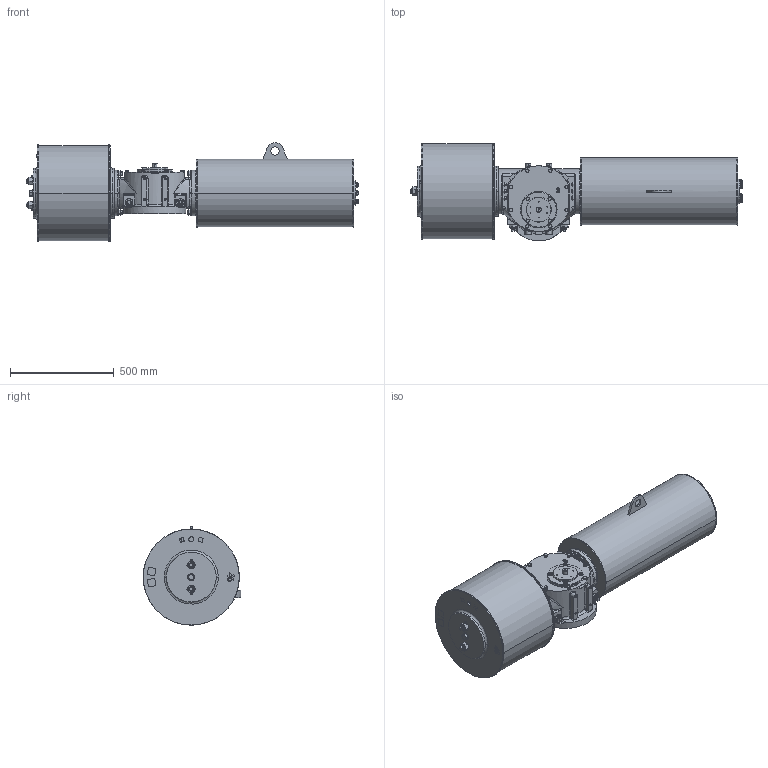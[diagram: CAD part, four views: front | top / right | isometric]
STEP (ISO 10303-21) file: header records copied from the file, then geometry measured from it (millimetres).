
FILE_DESCRIPTION (( 'STEP AP203' ), '1' );
FILE_NAME ('VTS3-450-SR-FC.STEP', '2022-04-19T02:17:41', ( 'hzljy' ), ( '' ), 'SwSTEP 2.0', 'SolidWorks 2020', '' );
FILE_SCHEMA (( 'CONFIG_CONTROL_DESIGN' ));
Length unit declared in the file: millimetre
Products named in the file (1): VTS3-450-SR-FC
Bounding box: 1598.78 x 471 x 474.5 mm (x, y, z)
Volume: 141611193.7 mm3; surface area: 2604733.2 mm2
Topology: 16 solids, 19 shells, 2025 faces, 5191 edges, 3277 vertices
Faces by surface type: plane 812, cylinder 599, cone 471, bspline 143
Entity records: 76841 total; most frequent: CARTESIAN_POINT 29069, ORIENTED_EDGE 10252, DIRECTION 9729, EDGE_CURVE 5126, AXIS2_PLACEMENT_3D 3837, VERTEX_POINT 3277, EDGE_LOOP 2245, VECTOR 2055
